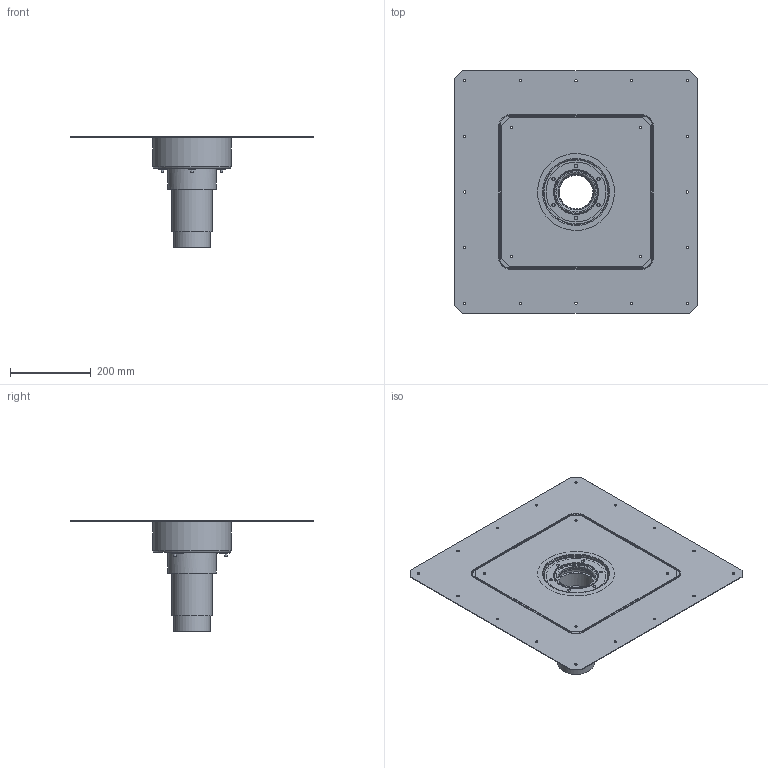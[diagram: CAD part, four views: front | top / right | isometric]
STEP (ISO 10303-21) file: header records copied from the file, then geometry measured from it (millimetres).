
FILE_DESCRIPTION(/* description */ (''),/* implementation_level */ '2;1');
FILE_NAME(/* name */ 'C:\Planerdaten\Export PLA\359.362.00.1\stp\359362.stp',/* time_stamp */ '2020-11-30T13:17:24+01:00',/* author */ ('JANAN'),/* organization */ (''),/* preprocessor_version */ 'ST-DEVELOPER v16.13',/* originating_system */ 'Autodesk Inventor 2018',/* authorisation */ '');
FILE_SCHEMA (('AUTOMOTIVE_DESIGN { 1 0 10303 214 3 1 1 }'));
Length unit declared in the file: millimetre
Products named in the file (1): tmp4F55.tmp
Bounding box: 600 x 600 x 273.5 mm (x, y, z)
Volume: 1520850.1 mm3; surface area: 1413677.2 mm2
Topology: 11 solids, 11 shells, 259 faces, 565 edges, 363 vertices
Faces by surface type: cylinder 103, plane 99, bspline 24, cone 18, torus 15
Full cylindrical faces by diameter (mm): 4.8 x9, 5.2 x4, 6 x29, 7 x3, 7.5 x9, 8 x12, 83.025 x1, 90 x1, 90.375 x1, 90.9 x2, 91 x1, 93 x1, 96 x1, 98.25 x1, 100 x1, 100.2 x1, 107.55 x1, 109 x1, 110 x1, 111 x1, 119 x1, 146 x1, 148 x1, 190 x2, 193 x1
Entity records: 10582 total; most frequent: CARTESIAN_POINT 4903, DIRECTION 1092, ORIENTED_EDGE 856, EDGE_LOOP 520, AXIS2_PLACEMENT_3D 474, EDGE_CURVE 428, VERTEX_POINT 346, STYLED_ITEM 270
